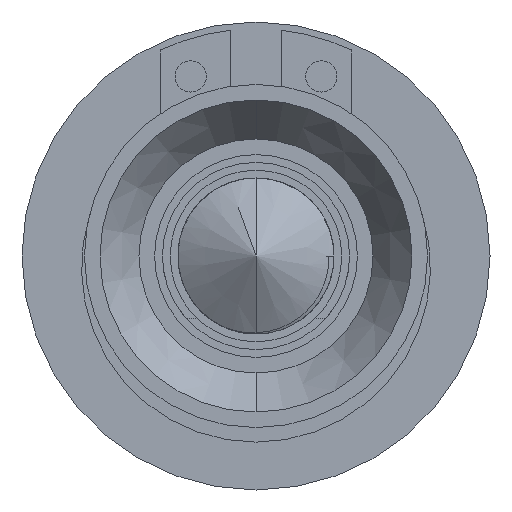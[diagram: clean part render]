
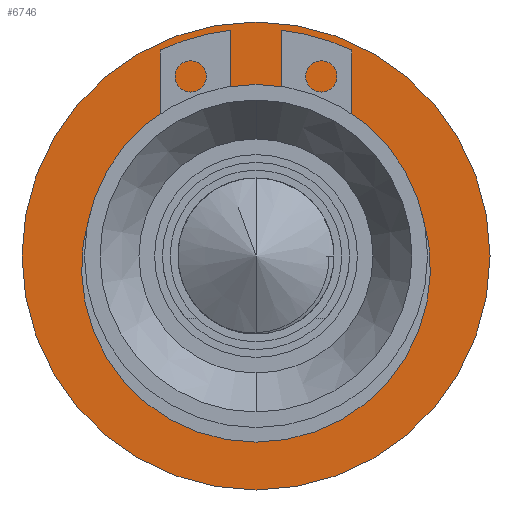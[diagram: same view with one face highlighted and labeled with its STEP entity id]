
A CAD part, front view. The second image highlights one B-rep face of the part: STEP entity #6746.
In plain terms, the highlighted planar face has unit normal (0, -1, 0).
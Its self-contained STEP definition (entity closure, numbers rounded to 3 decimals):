
#29 = DIRECTION ( 'NONE',  ( 0., 0., 1. ) ) ;
#184 = AXIS2_PLACEMENT_3D ( 'NONE', #7600, #2132, #2946 ) ;
#333 = EDGE_CURVE ( 'NONE', #2194, #653, #4742, .T. ) ;
#537 = CIRCLE ( 'NONE', #7174, 11. ) ;
#595 = ORIENTED_EDGE ( 'NONE', *, *, #697, .F. ) ;
#653 = VERTEX_POINT ( 'NONE', #1908 ) ;
#697 = EDGE_CURVE ( 'NONE', #2553, #6522, #537, .T. ) ;
#719 = CARTESIAN_POINT ( 'NONE',  ( 0., 30., 15. ) ) ;
#854 = EDGE_LOOP ( 'NONE', ( #595, #2044 ) ) ;
#926 = DIRECTION ( 'NONE',  ( 0., 0., 1. ) ) ;
#1173 = DIRECTION ( 'NONE',  ( 0., -1., 0. ) ) ;
#1552 = CIRCLE ( 'NONE', #2582, 11. ) ;
#1644 = CARTESIAN_POINT ( 'NONE',  ( 0., 30., 0. ) ) ;
#1908 = CARTESIAN_POINT ( 'NONE',  ( 0., 30., -15. ) ) ;
#1952 = ORIENTED_EDGE ( 'NONE', *, *, #333, .F. ) ;
#2044 = ORIENTED_EDGE ( 'NONE', *, *, #4072, .F. ) ;
#2132 = DIRECTION ( 'NONE',  ( 0., 1., 0. ) ) ;
#2194 = VERTEX_POINT ( 'NONE', #719 ) ;
#2400 = CARTESIAN_POINT ( 'NONE',  ( 0., 30., 0. ) ) ;
#2553 = VERTEX_POINT ( 'NONE', #6008 ) ;
#2582 = AXIS2_PLACEMENT_3D ( 'NONE', #6646, #1173, #3603 ) ;
#2886 = AXIS2_PLACEMENT_3D ( 'NONE', #2400, #7240, #29 ) ;
#2946 = DIRECTION ( 'NONE',  ( 0., 0., 1. ) ) ;
#3454 = AXIS2_PLACEMENT_3D ( 'NONE', #4427, #5146, #5750 ) ;
#3603 = DIRECTION ( 'NONE',  ( 0., 0., 1. ) ) ;
#3666 = FACE_BOUND ( 'NONE', #854, .T. ) ;
#4072 = EDGE_CURVE ( 'NONE', #6522, #2553, #1552, .T. ) ;
#4389 = ORIENTED_EDGE ( 'NONE', *, *, #5855, .F. ) ;
#4427 = CARTESIAN_POINT ( 'NONE',  ( 0., 30., 0. ) ) ;
#4742 = CIRCLE ( 'NONE', #3454, 15. ) ;
#5146 = DIRECTION ( 'NONE',  ( 0., 1., 0. ) ) ;
#5750 = DIRECTION ( 'NONE',  ( 0., 0., 1. ) ) ;
#5855 = EDGE_CURVE ( 'NONE', #653, #2194, #6072, .T. ) ;
#6008 = CARTESIAN_POINT ( 'NONE',  ( 0., 30., 11. ) ) ;
#6044 = FACE_OUTER_BOUND ( 'NONE', #6258, .T. ) ;
#6072 = CIRCLE ( 'NONE', #184, 15. ) ;
#6258 = EDGE_LOOP ( 'NONE', ( #1952, #4389 ) ) ;
#6521 = DIRECTION ( 'NONE',  ( 0., -1., 0. ) ) ;
#6522 = VERTEX_POINT ( 'NONE', #7896 ) ;
#6646 = CARTESIAN_POINT ( 'NONE',  ( 0., 30., 0. ) ) ;
#6746 = ADVANCED_FACE ( 'NONE', ( #3666, #6044 ), #6748, .F. ) ;
#6748 = PLANE ( 'NONE',  #2886 ) ;
#7174 = AXIS2_PLACEMENT_3D ( 'NONE', #1644, #6521, #926 ) ;
#7240 = DIRECTION ( 'NONE',  ( 0., 1., 0. ) ) ;
#7600 = CARTESIAN_POINT ( 'NONE',  ( 0., 30., 0. ) ) ;
#7896 = CARTESIAN_POINT ( 'NONE',  ( 0., 30., -11. ) ) ;
